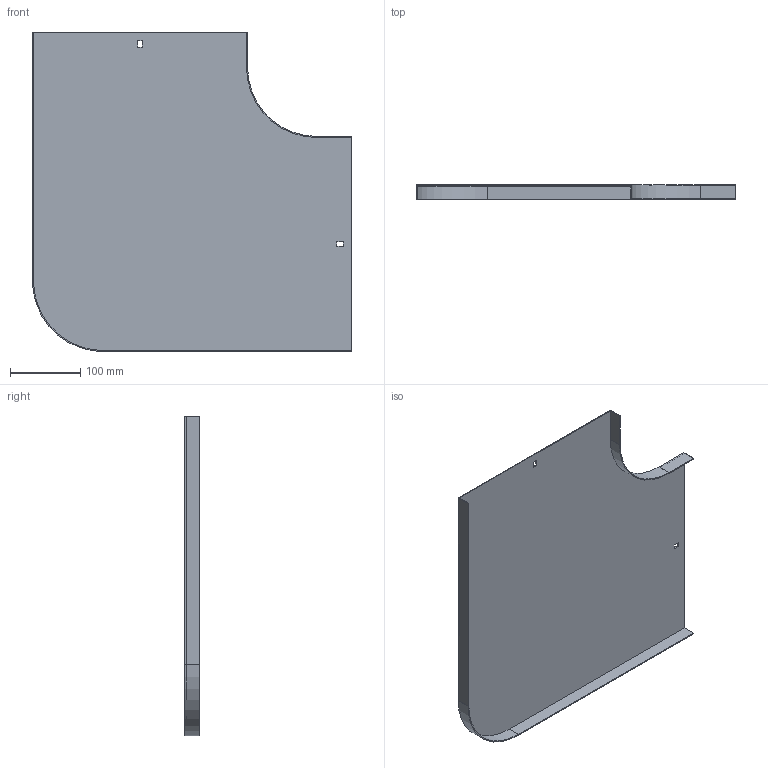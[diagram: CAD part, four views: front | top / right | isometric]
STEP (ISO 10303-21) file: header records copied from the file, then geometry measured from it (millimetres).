
FILE_DESCRIPTION (( 'STEP AP214' ), '1' );
FILE_NAME ('10N1R300.step', '2025-02-21T09:21:50', ( '' ), ( '' ), 'SwSTEP 2.0', 'SolidWorks 2023', '' );
FILE_SCHEMA (( 'AUTOMOTIVE_DESIGN' ));
Length unit declared in the file: millimetre
Products named in the file (1): 10N1R300
Bounding box: 455.5 x 20 x 455.5 mm (x, y, z)
Volume: 308913.3 mm3; surface area: 414692.6 mm2
Topology: 1 solids, 1 shells, 26 faces, 72 edges, 48 vertices
Faces by surface type: plane 22, cylinder 4
Entity records: 855 total; most frequent: CARTESIAN_POINT 147, ORIENTED_EDGE 144, DIRECTION 134, EDGE_CURVE 72, VECTOR 64, LINE 64, VERTEX_POINT 48, AXIS2_PLACEMENT_3D 35
